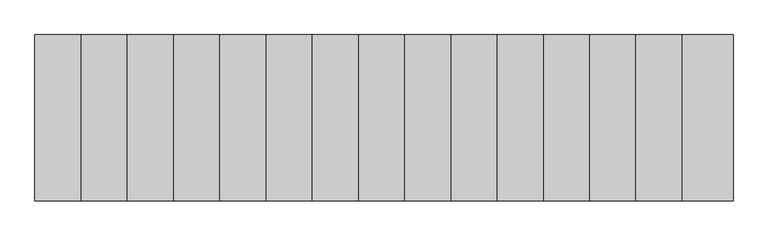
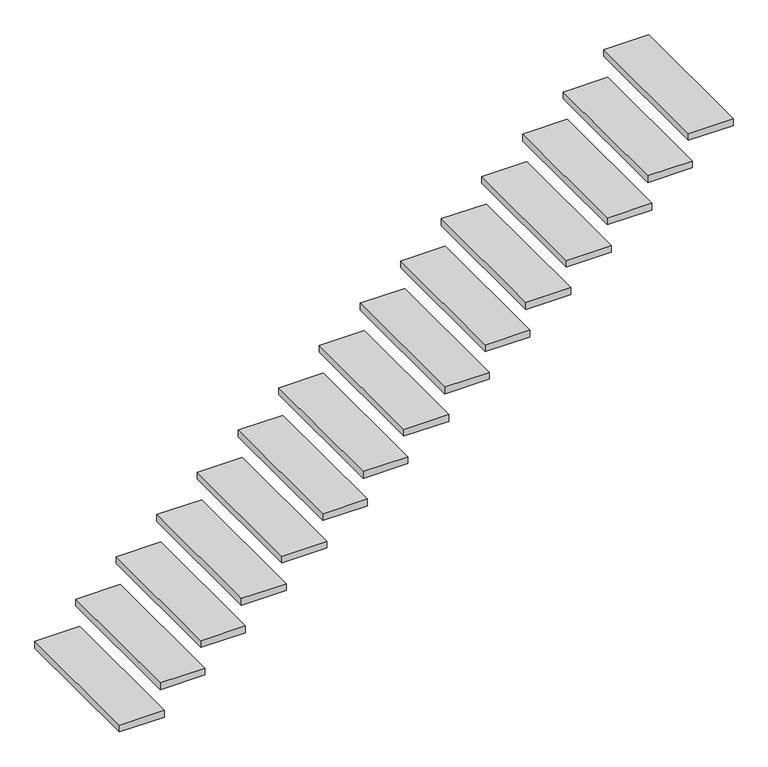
"""IFC4 building model written with IfcOpenShell, lengths in millimetres: stair flight geometry."""

from ifc_helpers import new_model, si_unit, frame, origin, place, context, project, spatial, polyline, outline, extrude, source, transform, mapped, element, save


def stair_flight_bbbf5137(model_context):
    return source(origin(), model_context, "Body", "SweptSolid", [
        extrude(outline(polyline([(-26951.4481446, -4273.6871906), (-26951.4481446, -5188.0871906), (-27230.8481446, -5188.0871906), (-27230.8481446, -4273.6871906), (-26951.4481446, -4273.6871906)])), frame((0.0, 0.0, 146.05), z_axis=(0.0, 0.0, 1.0), x_axis=(1.0, 0.0, 0.0)), (0.0, 0.0, 1.0), 44.45),
        extrude(outline(polyline([(-26697.4481446, -4273.6871906), (-26697.4481446, -5188.0871906), (-26976.8481446, -5188.0871906), (-26976.8481446, -4273.6871906), (-26697.4481446, -4273.6871906)])), frame((0.0, 0.0, 336.55), z_axis=(0.0, 0.0, 1.0), x_axis=(1.0, 0.0, 0.0)), (0.0, 0.0, 1.0), 44.45),
        extrude(outline(polyline([(-26443.4481446, -4273.6871906), (-26443.4481446, -5188.0871906), (-26722.8481446, -5188.0871906), (-26722.8481446, -4273.6871906), (-26443.4481446, -4273.6871906)])), frame((0.0, 0.0, 527.05), z_axis=(0.0, 0.0, 1.0), x_axis=(1.0, 0.0, 0.0)), (0.0, 0.0, 1.0), 44.45),
        extrude(outline(polyline([(-26189.4481446, -4273.6871906), (-26189.4481446, -5188.0871906), (-26468.8481446, -5188.0871906), (-26468.8481446, -4273.6871906), (-26189.4481446, -4273.6871906)])), frame((0.0, 0.0, 717.55), z_axis=(0.0, 0.0, 1.0), x_axis=(1.0, 0.0, 0.0)), (0.0, 0.0, 1.0), 44.45),
        extrude(outline(polyline([(-25935.4481446, -4273.6871906), (-25935.4481446, -5188.0871906), (-26214.8481446, -5188.0871906), (-26214.8481446, -4273.6871906), (-25935.4481446, -4273.6871906)])), frame((0.0, 0.0, 908.05), z_axis=(0.0, 0.0, 1.0), x_axis=(1.0, 0.0, 0.0)), (0.0, 0.0, 1.0), 44.45),
        extrude(outline(polyline([(-25681.4481446, -4273.6871906), (-25681.4481446, -5188.0871906), (-25960.8481446, -5188.0871906), (-25960.8481446, -4273.6871906), (-25681.4481446, -4273.6871906)])), frame((0.0, 0.0, 1098.55), z_axis=(0.0, 0.0, 1.0), x_axis=(1.0, 0.0, 0.0)), (0.0, 0.0, 1.0), 44.45),
        extrude(outline(polyline([(-25427.4481446, -4273.6871906), (-25427.4481446, -5188.0871906), (-25706.8481446, -5188.0871906), (-25706.8481446, -4273.6871906), (-25427.4481446, -4273.6871906)])), frame((0.0, 0.0, 1289.05), z_axis=(0.0, 0.0, 1.0), x_axis=(1.0, 0.0, 0.0)), (0.0, 0.0, 1.0), 44.45),
        extrude(outline(polyline([(-25173.4481446, -4273.6871906), (-25173.4481446, -5188.0871906), (-25452.8481446, -5188.0871906), (-25452.8481446, -4273.6871906), (-25173.4481446, -4273.6871906)])), frame((0.0, 0.0, 1479.55), z_axis=(0.0, 0.0, 1.0), x_axis=(1.0, 0.0, 0.0)), (0.0, 0.0, 1.0), 44.45),
        extrude(outline(polyline([(-24919.4481446, -4273.6871906), (-24919.4481446, -5188.0871906), (-25198.8481446, -5188.0871906), (-25198.8481446, -4273.6871906), (-24919.4481446, -4273.6871906)])), frame((0.0, 0.0, 1670.05), z_axis=(0.0, 0.0, 1.0), x_axis=(1.0, 0.0, 0.0)), (0.0, 0.0, 1.0), 44.45),
        extrude(outline(polyline([(-24665.4481446, -4273.6871906), (-24665.4481446, -5188.0871906), (-24944.8481446, -5188.0871906), (-24944.8481446, -4273.6871906), (-24665.4481446, -4273.6871906)])), frame((0.0, 0.0, 1860.55), z_axis=(0.0, 0.0, 1.0), x_axis=(1.0, 0.0, 0.0)), (0.0, 0.0, 1.0), 44.45),
        extrude(outline(polyline([(-24411.4481446, -4273.6871906), (-24411.4481446, -5188.0871906), (-24690.8481446, -5188.0871906), (-24690.8481446, -4273.6871906), (-24411.4481446, -4273.6871906)])), frame((0.0, 0.0, 2051.05), z_axis=(0.0, 0.0, 1.0), x_axis=(1.0, 0.0, 0.0)), (0.0, 0.0, 1.0), 44.45),
        extrude(outline(polyline([(-24157.4481446, -4273.6871906), (-24157.4481446, -5188.0871906), (-24436.8481446, -5188.0871906), (-24436.8481446, -4273.6871906), (-24157.4481446, -4273.6871906)])), frame((0.0, 0.0, 2241.55), z_axis=(0.0, 0.0, 1.0), x_axis=(1.0, 0.0, 0.0)), (0.0, 0.0, 1.0), 44.45),
        extrude(outline(polyline([(-23903.4481446, -4273.6871906), (-23903.4481446, -5188.0871906), (-24182.8481446, -5188.0871906), (-24182.8481446, -4273.6871906), (-23903.4481446, -4273.6871906)])), frame((0.0, 0.0, 2432.05), z_axis=(0.0, 0.0, 1.0), x_axis=(1.0, 0.0, 0.0)), (0.0, 0.0, 1.0), 44.45),
        extrude(outline(polyline([(-23649.4481446, -4273.6871906), (-23649.4481446, -5188.0871906), (-23928.8481446, -5188.0871906), (-23928.8481446, -4273.6871906), (-23649.4481446, -4273.6871906)])), frame((0.0, 0.0, 2622.55), z_axis=(0.0, 0.0, 1.0), x_axis=(1.0, 0.0, 0.0)), (0.0, 0.0, 1.0), 44.45),
        extrude(outline(polyline([(-23395.4481446, -4273.6871906), (-23395.4481446, -5188.0871906), (-23674.8481446, -5188.0871906), (-23674.8481446, -4273.6871906), (-23395.4481446, -4273.6871906)])), frame((0.0, 0.0, 2813.05), z_axis=(0.0, 0.0, 1.0), x_axis=(1.0, 0.0, 0.0)), (0.0, 0.0, 1.0), 44.45),
    ])


if __name__ == "__main__":
    model = new_model("IFC4")
    model_context = context("Model", 3, world=origin())
    ifc_project = project(units=[si_unit("LENGTHUNIT", "METRE", prefix="MILLI")], contexts=[model_context])
    site = spatial("IfcSite", under=ifc_project)
    building = spatial("IfcBuilding", under=site)
    placement = place(None, origin())
    stair_flight_shape = stair_flight_bbbf5137(model_context)
    element("IfcStairFlight", 1, ObjectType="Unassigned Steps with 1 3/4\" Tread 1\" Nosing", at=placement, inside=building, context=model_context, shape_type="MappedRepresentation", body=[
        mapped(stair_flight_shape, transform((0.0, 0.0, 0.0), x_axis=(1.0, 0.0, 0.0), y_axis=(0.0, 1.0, 0.0), z_axis=(0.0, 0.0, 1.0))),
    ])
    save(model, "model.ifc")
